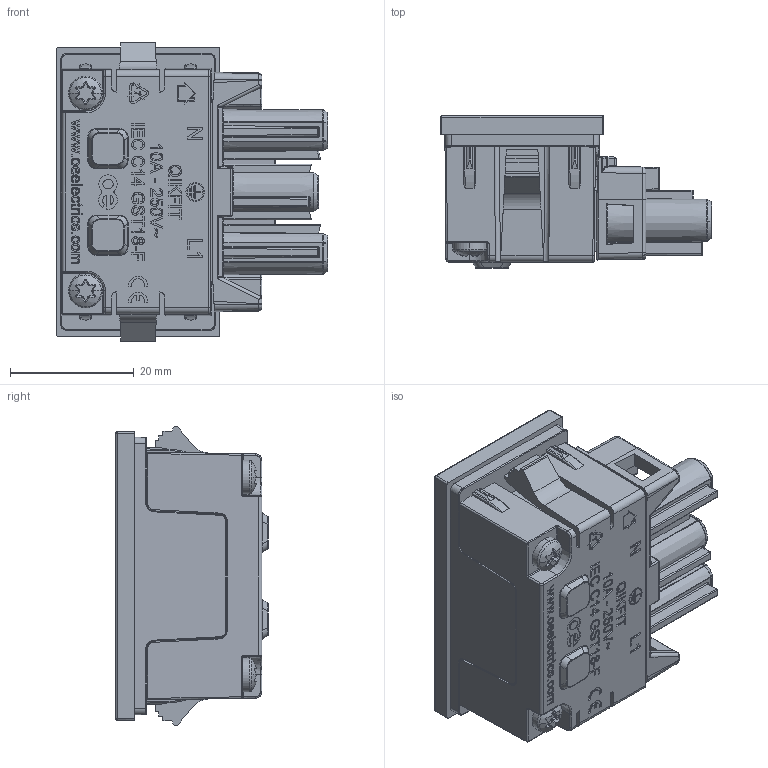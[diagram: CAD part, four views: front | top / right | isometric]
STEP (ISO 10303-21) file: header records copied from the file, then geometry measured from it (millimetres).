
FILE_DESCRIPTION (( 'STEP AP203' ), '1' );
FILE_NAME ('QIKFIT-IEC-Module 1.STEP', '2019-07-16T10:49:24', ( '' ), ( '' ), 'SwSTEP 2.0', 'SolidWorks 2019', '' );
FILE_SCHEMA (( 'CONFIG_CONTROL_DESIGN' ));
Products named in the file (1): QIKFIT-IEC-Module 1
Bounding box: 43.95 x 24.65 x 48.41 mm (x, y, z)
Volume: 21501.9 mm3; surface area: 11950.6 mm2
Topology: 3 solids, 3 shells, 1928 faces, 4898 edges, 3025 vertices
Faces by surface type: plane 793, cylinder 481, bspline 468, sphere 89, torus 65, cone 32
Entity records: 75934 total; most frequent: CARTESIAN_POINT 33749, ORIENTED_EDGE 9712, DIRECTION 7422, EDGE_CURVE 4856, VERTEX_POINT 3017, VECTOR 2750, LINE 2750, AXIS2_PLACEMENT_3D 2336
